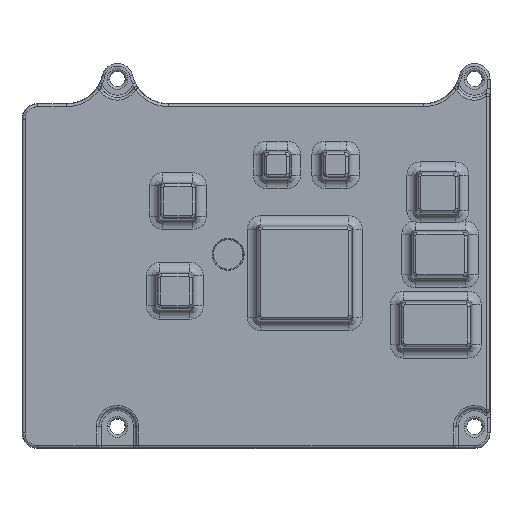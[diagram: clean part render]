
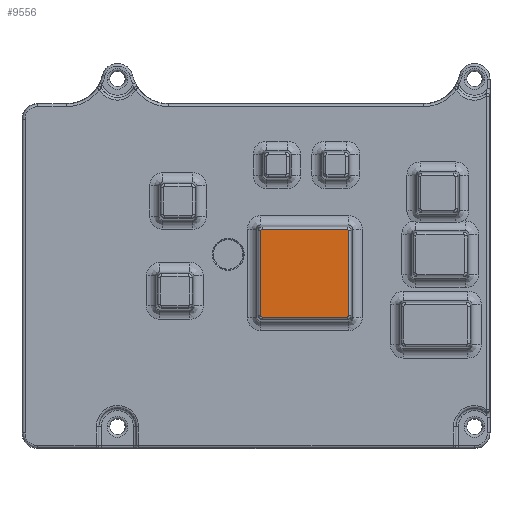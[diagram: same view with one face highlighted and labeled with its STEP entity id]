
A CAD part, front view. The second image highlights one B-rep face of the part: STEP entity #9556.
In plain terms, the highlighted planar face has unit normal (0, -1, 0).
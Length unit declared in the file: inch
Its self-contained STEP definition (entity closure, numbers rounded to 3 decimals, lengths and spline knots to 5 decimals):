
#2816=CARTESIAN_POINT('',(-1.72409,-0.45276,
1.60259));
#2817=CARTESIAN_POINT('',(-1.72549,-0.45276,
1.60259));
#2818=CARTESIAN_POINT('',(-1.72806,-0.45276,
1.60207));
#2819=CARTESIAN_POINT('',(-1.73158,-0.45276,
1.59979));
#2820=CARTESIAN_POINT('',(-1.73388,-0.45276,
1.59627));
#2821=CARTESIAN_POINT('',(-1.7344,-0.45276,
1.59368));
#2822=CARTESIAN_POINT('',(-1.7344,-0.45276,
1.59228));
#2824=DIRECTION('',(-1.,0.,0.));
#2825=VECTOR('',#2824,0.69066);
#2826=CARTESIAN_POINT('',(-1.03343,-0.45276,
1.60259));
#2827=LINE('',#2826,#2825);
#2828=CARTESIAN_POINT('',(-1.02313,-0.45276,
1.59228));
#2829=CARTESIAN_POINT('',(-1.02312,-0.45276,
1.59368));
#2830=CARTESIAN_POINT('',(-1.02364,-0.45276,
1.59625));
#2831=CARTESIAN_POINT('',(-1.02593,-0.45276,
1.59977));
#2832=CARTESIAN_POINT('',(-1.02945,-0.45276,
1.60207));
#2833=CARTESIAN_POINT('',(-1.03203,-0.45276,
1.60259));
#2834=CARTESIAN_POINT('',(-1.03343,-0.45276,
1.60259));
#2836=DIRECTION('',(0.,0.,1.));
#2837=VECTOR('',#2836,0.69066);
#2838=CARTESIAN_POINT('',(-1.02313,-0.45276,
0.90162));
#2839=LINE('',#2838,#2837);
#2840=CARTESIAN_POINT('',(-1.03343,-0.45276,
0.89131));
#2841=CARTESIAN_POINT('',(-1.03204,-0.45276,
0.89131));
#2842=CARTESIAN_POINT('',(-1.02947,-0.45276,
0.89183));
#2843=CARTESIAN_POINT('',(-1.02595,-0.45276,
0.89412));
#2844=CARTESIAN_POINT('',(-1.02365,-0.45276,
0.89764));
#2845=CARTESIAN_POINT('',(-1.02312,-0.45276,
0.90022));
#2846=CARTESIAN_POINT('',(-1.02313,-0.45276,
0.90162));
#2848=DIRECTION('',(1.,0.,0.));
#2849=VECTOR('',#2848,0.69066);
#2850=CARTESIAN_POINT('',(-1.72409,-0.45276,
0.89131));
#2851=LINE('',#2850,#2849);
#2852=CARTESIAN_POINT('',(-1.7344,-0.45276,
0.90162));
#2853=CARTESIAN_POINT('',(-1.7344,-0.45276,
0.90023));
#2854=CARTESIAN_POINT('',(-1.73388,-0.45276,
0.89765));
#2855=CARTESIAN_POINT('',(-1.7316,-0.45276,
0.89414));
#2856=CARTESIAN_POINT('',(-1.72808,-0.45276,
0.89184));
#2857=CARTESIAN_POINT('',(-1.72549,-0.45276,
0.89131));
#2858=CARTESIAN_POINT('',(-1.72409,-0.45276,
0.89131));
#2860=DIRECTION('',(0.,0.,-1.));
#2861=VECTOR('',#2860,0.69066);
#2862=CARTESIAN_POINT('',(-1.7344,-0.45276,
1.59228));
#2863=LINE('',#2862,#2861);
#4066=VERTEX_POINT('',#2816);
#4067=VERTEX_POINT('',#2822);
#4070=CARTESIAN_POINT('',(-1.7344,-0.45276,
0.90162));
#4071=VERTEX_POINT('',#4070);
#4074=VERTEX_POINT('',#2858);
#4076=CARTESIAN_POINT('',(-1.03343,-0.45276,
0.89131));
#4077=VERTEX_POINT('',#4076);
#4080=VERTEX_POINT('',#2846);
#4082=CARTESIAN_POINT('',(-1.02313,-0.45276,
1.59228));
#4083=VERTEX_POINT('',#4082);
#4086=VERTEX_POINT('',#2834);
#9534=CARTESIAN_POINT('',(0.,-0.45276,0.));
#9535=DIRECTION('',(0.,-1.,0.));
#9536=DIRECTION('',(-1.,0.,0.));
#9537=AXIS2_PLACEMENT_3D('',#9534,#9535,#9536);
#9538=PLANE('',#9537);
#9540=ORIENTED_EDGE('',*,*,#9539,.F.);
#9542=ORIENTED_EDGE('',*,*,#9541,.F.);
#9544=ORIENTED_EDGE('',*,*,#9543,.F.);
#9546=ORIENTED_EDGE('',*,*,#9545,.F.);
#9548=ORIENTED_EDGE('',*,*,#9547,.F.);
#9550=ORIENTED_EDGE('',*,*,#9549,.F.);
#9551=ORIENTED_EDGE('',*,*,#9524,.F.);
#9553=ORIENTED_EDGE('',*,*,#9552,.F.);
#9554=EDGE_LOOP('',(#9540,#9542,#9544,#9546,#9548,#9550,#9551,#9553));
#9555=FACE_OUTER_BOUND('',#9554,.F.);
#9556=ADVANCED_FACE('',(#9555),#9538,.T.);
#2823=B_SPLINE_CURVE_WITH_KNOTS('',3,(#2816,#2817,#2818,#2819,#2820,#2821,
#2822),.UNSPECIFIED.,.F.,.F.,(4,1,1,1,4),(0.,0.25,0.5,0.75,1.),
.UNSPECIFIED.);
#2835=B_SPLINE_CURVE_WITH_KNOTS('',3,(#2828,#2829,#2830,#2831,#2832,#2833,
#2834),.UNSPECIFIED.,.F.,.F.,(4,1,1,1,4),(0.,0.25,0.5,0.75,1.),
.UNSPECIFIED.);
#2847=B_SPLINE_CURVE_WITH_KNOTS('',3,(#2840,#2841,#2842,#2843,#2844,#2845,
#2846),.UNSPECIFIED.,.F.,.F.,(4,1,1,1,4),(0.,0.25,0.5,0.75,1.),
.UNSPECIFIED.);
#2859=B_SPLINE_CURVE_WITH_KNOTS('',3,(#2852,#2853,#2854,#2855,#2856,#2857,
#2858),.UNSPECIFIED.,.F.,.F.,(4,1,1,1,4),(0.,0.25,0.5,0.75,1.),
.UNSPECIFIED.);
#9524=EDGE_CURVE('',#4071,#4074,#2859,.T.);
#9539=EDGE_CURVE('',#4066,#4067,#2823,.T.);
#9541=EDGE_CURVE('',#4086,#4066,#2827,.T.);
#9543=EDGE_CURVE('',#4083,#4086,#2835,.T.);
#9545=EDGE_CURVE('',#4080,#4083,#2839,.T.);
#9547=EDGE_CURVE('',#4077,#4080,#2847,.T.);
#9549=EDGE_CURVE('',#4074,#4077,#2851,.T.);
#9552=EDGE_CURVE('',#4067,#4071,#2863,.T.);
